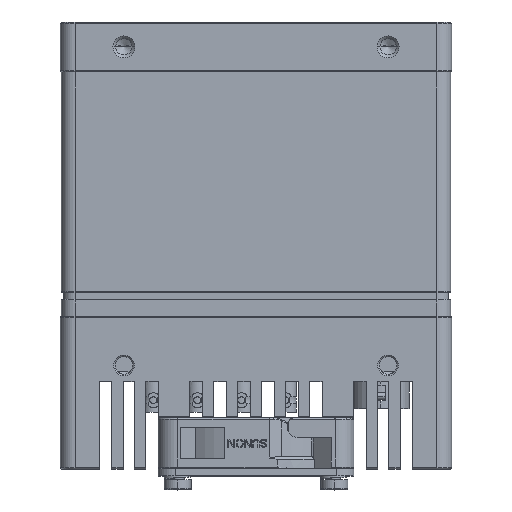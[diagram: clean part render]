
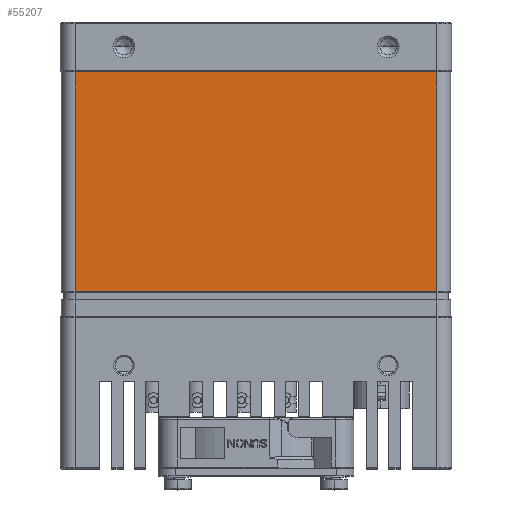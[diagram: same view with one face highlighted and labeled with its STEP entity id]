
A CAD part, top view. The second image highlights one B-rep face of the part: STEP entity #55207.
In plain terms, the highlighted planar face has unit normal (0, 0, 1).
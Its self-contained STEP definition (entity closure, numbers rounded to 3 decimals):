
#6176=DIRECTION('',(1.,0.,0.));
#6177=VECTOR('',#6176,74.);
#6178=CARTESIAN_POINT('',(-37.,-12.,39.8));
#6179=LINE('',#6178,#6177);
#6190=DIRECTION('',(0.,-1.,0.));
#6191=VECTOR('',#6190,44.9);
#6192=CARTESIAN_POINT('',(37.,-12.,39.8));
#6193=LINE('',#6192,#6191);
#6197=DIRECTION('',(1.,0.,0.));
#6198=VECTOR('',#6197,74.);
#6199=CARTESIAN_POINT('',(-37.,-56.9,
39.8));
#6200=LINE('',#6199,#6198);
#6225=DIRECTION('',(0.,-1.,0.));
#6226=VECTOR('',#6225,44.9);
#6227=CARTESIAN_POINT('',(-37.,-12.,39.8));
#6228=LINE('',#6227,#6226);
#43326=CARTESIAN_POINT('',(37.,-56.9,39.8));
#43327=VERTEX_POINT('',#43326);
#43328=CARTESIAN_POINT('',(-37.,-56.9,
39.8));
#43329=VERTEX_POINT('',#43328);
#47893=CARTESIAN_POINT('',(-37.,-12.,39.8));
#47894=VERTEX_POINT('',#47893);
#47895=CARTESIAN_POINT('',(37.,-12.,39.8));
#47896=VERTEX_POINT('',#47895);
#55194=CARTESIAN_POINT('',(0.,-34.45,39.8));
#55195=DIRECTION('',(0.,0.,1.));
#55196=DIRECTION('',(1.,0.,0.));
#55197=AXIS2_PLACEMENT_3D('',#55194,#55195,#55196);
#55198=PLANE('',#55197);
#55199=ORIENTED_EDGE('',*,*,#55177,.T.);
#55200=ORIENTED_EDGE('',*,*,#55139,.T.);
#55202=ORIENTED_EDGE('',*,*,#55201,.F.);
#55204=ORIENTED_EDGE('',*,*,#55203,.F.);
#55205=EDGE_LOOP('',(#55199,#55200,#55202,#55204));
#55206=FACE_OUTER_BOUND('',#55205,.F.);
#55207=ADVANCED_FACE('',(#55206),#55198,.T.);
#55139=EDGE_CURVE('',#47896,#43327,#6193,.T.);
#55177=EDGE_CURVE('',#47894,#47896,#6179,.T.);
#55201=EDGE_CURVE('',#43329,#43327,#6200,.T.);
#55203=EDGE_CURVE('',#47894,#43329,#6228,.T.);
